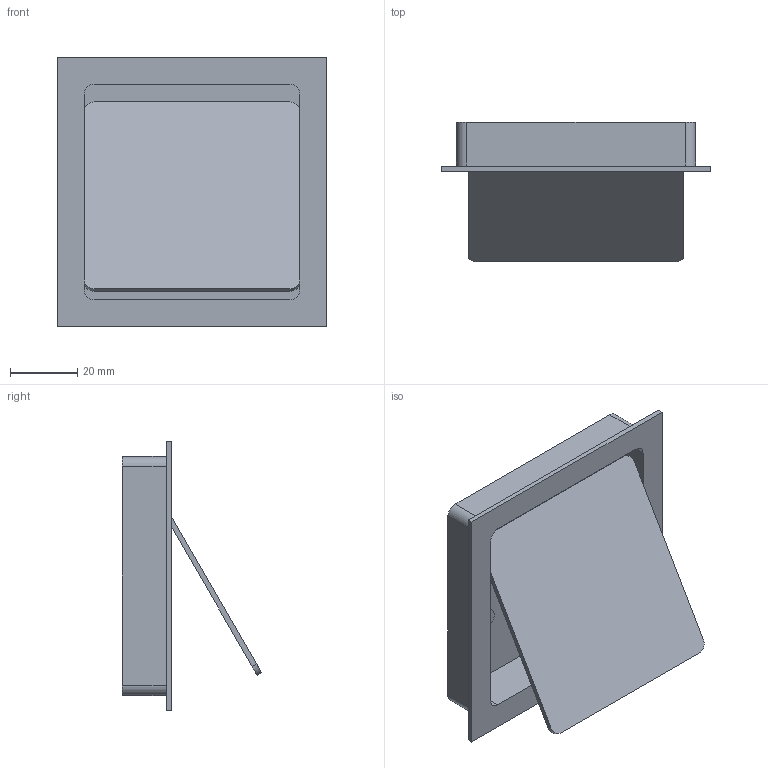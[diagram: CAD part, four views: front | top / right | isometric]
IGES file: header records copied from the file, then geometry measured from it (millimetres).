
Start section: Data from Parasolid IGES Translator 15.0.47, Copyright(c) 2006 Siemens P LM Software. All Rights Reserved.
Global section: file name: 115129.igs; native system:  By UGS Corp.; preprocessor: XPlus GENERIC/IGES 3.0; author: Noname; organization: Noname; date: 20150806.164854; units: millimetre
Bounding box: 80 x 41.3 x 80 mm (x, y, z)
Surface area: 28946.5 mm2 (no closed solid volume)
Topology: 0 solids, 0 shells, 42 faces, 220 edges, 218 vertices
Faces by surface type: extrusion 26, revolution 16
